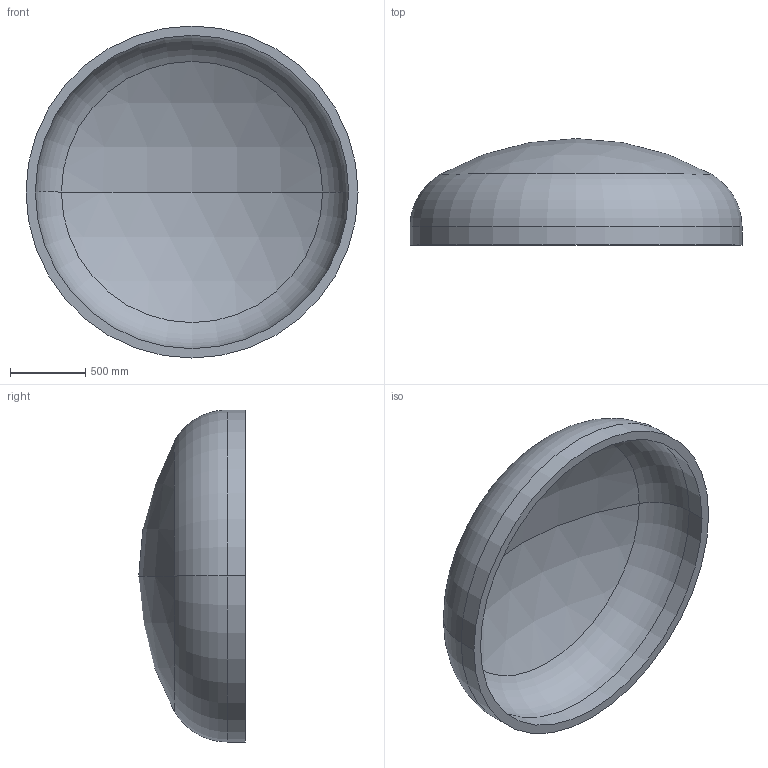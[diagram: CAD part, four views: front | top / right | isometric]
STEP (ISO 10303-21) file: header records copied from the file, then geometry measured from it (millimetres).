
FILE_DESCRIPTION (( 'STEP AP203' ), '1' );
FILE_NAME ('DIN 28013 Korbbogenform_-_Boden DIN 28013 - 2200 x 120 - I - s=62.step', '2016-07-01T14:43:47', ( '' ), ( '' ), 'SwSTEP 2.0', 'SolidWorks 2013', '' );
FILE_SCHEMA (( 'CONFIG_CONTROL_DESIGN' ));
Length unit declared in the file: millimetre
Products named in the file (1): DIN 28013 Korbbogenform_-_Boden DIN 28013 - 2200 x 120 - I - s=62
Bounding box: 2200 x 705.39 x 2200 mm (x, y, z)
Volume: 364796227.1 mm3; surface area: 12192104.4 mm2
Topology: 1 solids, 1 shells, 13 faces, 24 edges, 14 vertices
Faces by surface type: torus 4, cylinder 4, sphere 4, plane 1
Entity records: 407 total; most frequent: DIRECTION 72, CARTESIAN_POINT 52, ORIENTED_EDGE 48, AXIS2_PLACEMENT_3D 34, EDGE_CURVE 24, CIRCLE 20, VERTEX_POINT 14, EDGE_LOOP 14
